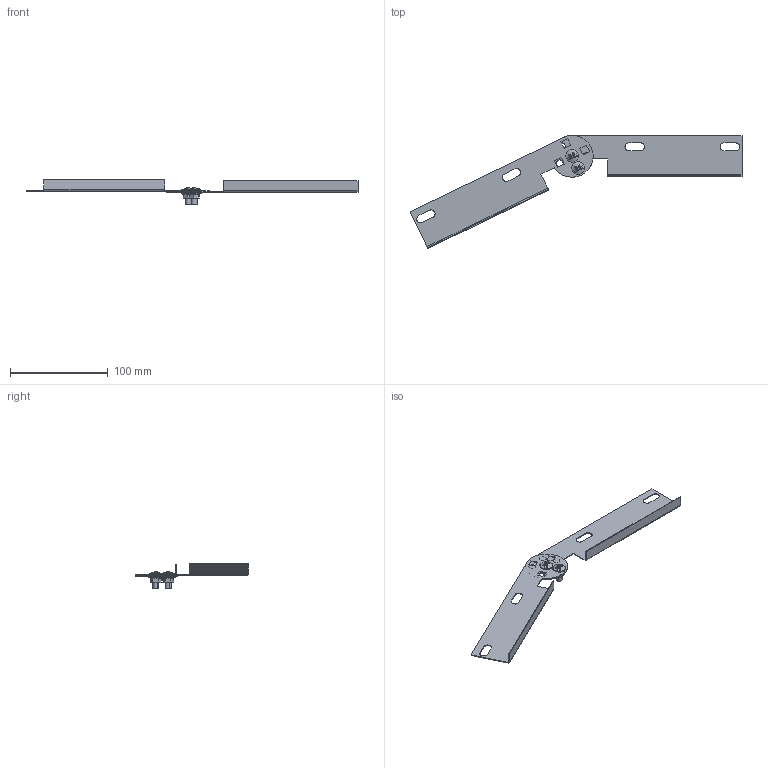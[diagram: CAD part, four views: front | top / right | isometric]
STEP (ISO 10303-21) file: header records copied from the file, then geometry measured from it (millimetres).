
FILE_DESCRIPTION (( 'STEP AP203' ), '1' );
FILE_NAME ('JUER-A_Block_H60 ZZZZ X YYYY [pieza1].step', '2023-07-27T18:58:14', ( '' ), ( '' ), 'SwSTEP 2.0', 'SolidWorks 2022', '' );
FILE_SCHEMA (( 'CONFIG_CONTROL_DESIGN' ));
Length unit declared in the file: millimetre
Products named in the file (6): Tuerca M6 DIN 6923_ZZZZ x YYYY; JUER-A_H60_izq_60; JUER-A_H60_der_60; JUER-A_Block_H60 ZZZZ X YYYY [pieza1]; tornillo B1 M6x14_M6x14; Conjunto B1 tornillo + tuerca DIN6923_e chapa 2
Assembly tree (6 placements, depth 3):
  JUER-A_Block_H60 ZZZZ X YYYY [pieza1]
    JUER-A_H60_izq_60
    JUER-A_H60_der_60
    Conjunto B1 tornillo + tuerca DIN6923_e chapa 2  x2
      tornillo B1 M6x14_M6x14
      Tuerca M6 DIN 6923_ZZZZ x YYYY
Bounding box: 340.34 x 115.87 x 25.35 mm (x, y, z)
Volume: 15959.4 mm3; surface area: 37879.2 mm2
Topology: 6 solids, 6 shells, 382 faces, 942 edges, 564 vertices
Faces by surface type: cylinder 122, plane 120, torus 84, sphere 28, bspline 28
Entity records: 8483 total; most frequent: CARTESIAN_POINT 2205, DIRECTION 1225, ORIENTED_EDGE 1160, EDGE_CURVE 580, AXIS2_PLACEMENT_3D 486, VERTEX_POINT 356, EDGE_LOOP 268, CIRCLE 256
